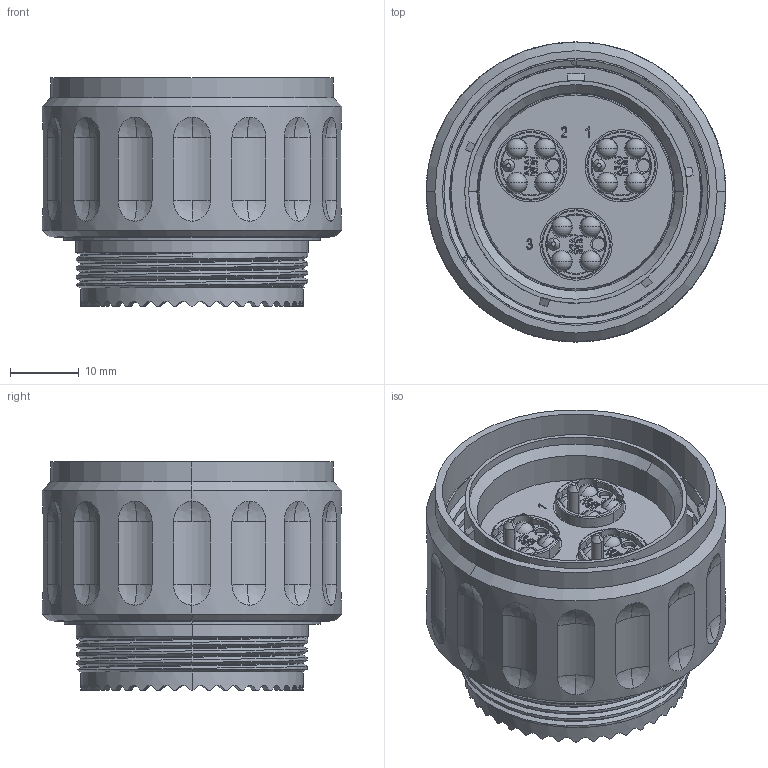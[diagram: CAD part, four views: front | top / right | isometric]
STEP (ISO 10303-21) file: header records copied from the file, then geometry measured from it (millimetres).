
FILE_DESCRIPTION (( 'STEP AP214' ), '1' );
FILE_NAME ('Q38EB-PGX-23XX-X.STEP', '2025-08-22T18:50:41', ( '' ), ( '' ), 'SwSTEP 2.0', 'SolidWorks 2024', '' );
FILE_SCHEMA (( 'AUTOMOTIVE_DESIGN' ));
Length unit declared in the file: millimetre
Products named in the file (1): Q38EB-PGX-23XX-X
Bounding box: 43.76 x 43.76 x 33.35 mm (x, y, z)
Volume: 28915.7 mm3; surface area: 13729.4 mm2
Topology: 1 solids, 1 shells, 1089 faces, 2822 edges, 1838 vertices
Faces by surface type: plane 531, cylinder 260, bspline 121, sphere 88, cone 65, torus 24
Entity records: 41716 total; most frequent: CARTESIAN_POINT 16058, ORIENTED_EDGE 5632, DIRECTION 5013, EDGE_CURVE 2816, VERTEX_POINT 1838, AXIS2_PLACEMENT_3D 1835, LINE 1343, VECTOR 1343
